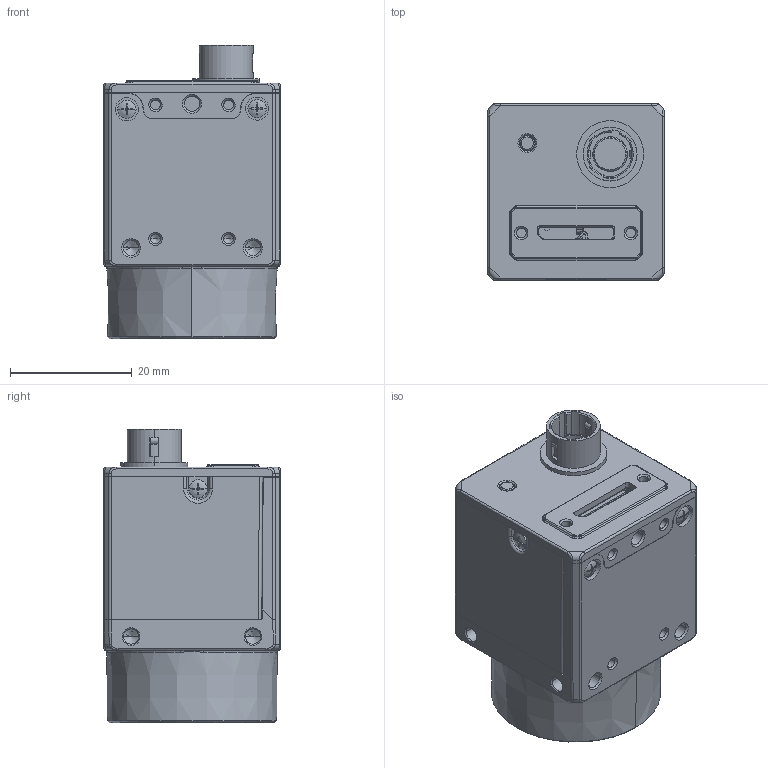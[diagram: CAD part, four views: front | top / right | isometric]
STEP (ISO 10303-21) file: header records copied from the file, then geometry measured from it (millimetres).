
FILE_DESCRIPTION((''),'2;1');
FILE_NAME('CS_U0','2026-08-28T16:10:26',('sunli10'),(''),'CREO PARAMETRIC BY PTC INC, 2020044','CREO PARAMETRIC BY PTC INC, 2020044','');
FILE_SCHEMA(('CONFIG_CONTROL_DESIGN'));
Products named in the file (1): CS_U0
Bounding box: 29.03 x 29 x 48.21 mm (x, y, z)
Surface area: 14492.7 mm2
Topology: 8 solids, 9 shells, 1811 faces, 5105 edges, 3244 vertices
Faces by surface type: plane 968, cylinder 607, cone 109, bspline 59, torus 54, sphere 10, extrusion 4
Entity records: 65334 total; most frequent: CARTESIAN_POINT 18560, ORIENTED_EDGE 10098, DIRECTION 9556, EDGE_CURVE 5049, VERTEX_POINT 3242, AXIS2_PLACEMENT_3D 3230, VECTOR 3096, LINE 3092
